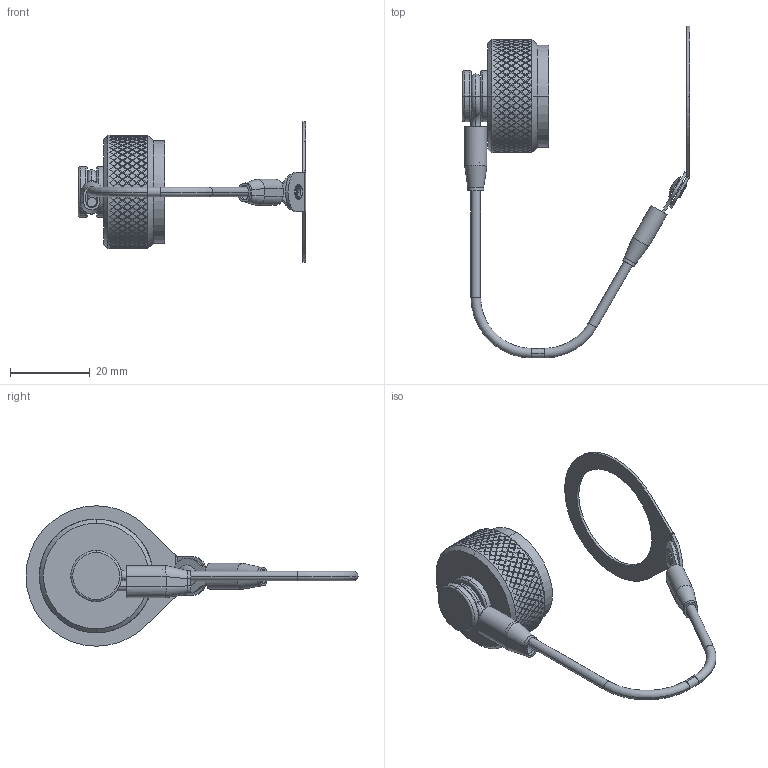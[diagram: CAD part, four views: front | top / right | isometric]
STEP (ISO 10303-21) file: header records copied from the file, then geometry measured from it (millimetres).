
FILE_DESCRIPTION (( 'STEP AP214' ), '1' );
FILE_NAME ('Q38DC-RJX-13-R0.STEP', '2026-04-22T20:22:45', ( '' ), ( '' ), 'SwSTEP 2.0', 'SolidWorks 2024', '' );
FILE_SCHEMA (( 'AUTOMOTIVE_DESIGN' ));
Length unit declared in the file: inch
Products named in the file (11): Q38-XX29-P_13R; Q38-XX48-X_Q38-1348-X; SW-XRXX_SW-BR13; SW-349_SW-349; SW-348; HEAT SHRINK_HS-125-625S; Lanyard Assembly Q38_Q38DC-RJX-13; LN-06-07-13_Q38DC-RJX-13; Q38DC-RJX-13-R0; HEAT SHRINK_HS-250X625_SW-348; SW-347
Assembly tree (10 placements, depth 3):
  Q38DC-RJX-13-R0
    Q38-XX48-X_Q38-1348-X
    Lanyard Assembly Q38_Q38DC-RJX-13
      LN-06-07-13_Q38DC-RJX-13
      SW-348
      HEAT SHRINK_HS-250X625_SW-348
      SW-347
      HEAT SHRINK_HS-125-625S
      SW-349_SW-349
      SW-XRXX_SW-BR13
    Q38-XX29-P_13R
Bounding box: 56.9 x 83.02 x 35.1 mm (x, y, z)
Volume: 6879.6 mm3; surface area: 8851.7 mm2
Topology: 9 solids, 9 shells, 2274 faces, 5609 edges, 3712 vertices
Faces by surface type: plane 1715, cylinder 509, torus 26, bspline 16, cone 6, sphere 2
Entity records: 67863 total; most frequent: CARTESIAN_POINT 23408, ORIENTED_EDGE 11218, DIRECTION 7004, EDGE_CURVE 5609, VERTEX_POINT 3712, EDGE_LOOP 2647, AXIS2_PLACEMENT_3D 2586, FACE_OUTER_BOUND 2274
